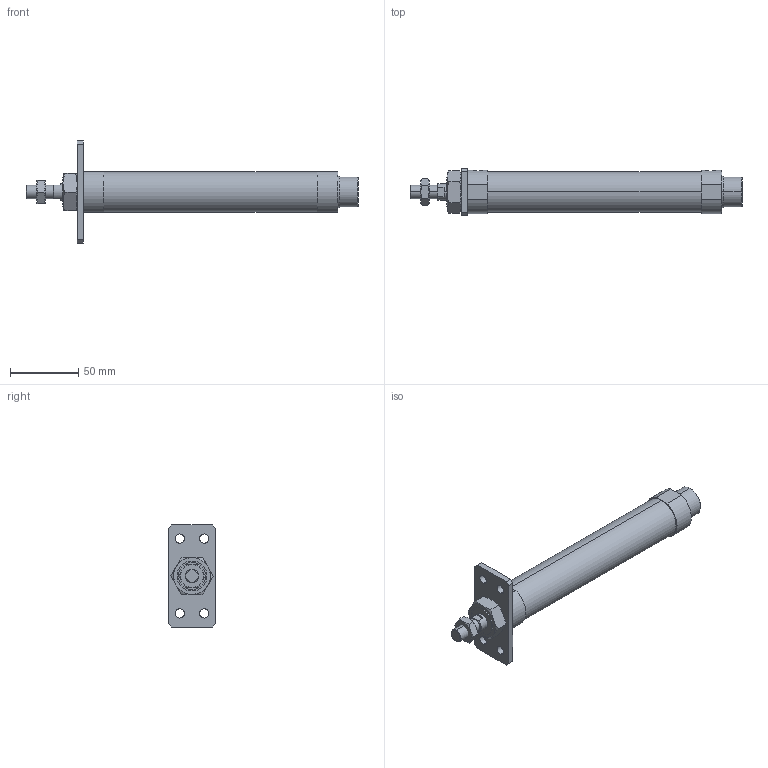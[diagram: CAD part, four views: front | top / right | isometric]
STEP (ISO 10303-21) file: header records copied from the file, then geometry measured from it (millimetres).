
FILE_DESCRIPTION (( 'STEP AP203' ), '1' );
FILE_NAME ('J#2-25-125-A.STEP', '2016-03-08T07:24:28', ( '' ), ( '' ), 'SwSTEP 2.0', 'SolidWorks 2014', '' );
FILE_SCHEMA (( 'CONFIG_CONTROL_DESIGN' ));
Length unit declared in the file: millimetre
Products named in the file (5): J#2-25-A; J#2-25-125; J#2-25-125-A
Assembly tree (4 placements, depth 2):
  J#2-25-125-A
    J#2-25-125
    (unnamed)
    (unnamed)
    J#2-25-A
Bounding box: 244 x 35 x 75 mm (x, y, z)
Volume: 159216.7 mm3; surface area: 32500.2 mm2
Topology: 4 solids, 4 shells, 117 faces, 268 edges, 162 vertices
Faces by surface type: plane 47, cylinder 36, torus 24, cone 10
Entity records: 4123 total; most frequent: CARTESIAN_POINT 990, DIRECTION 558, ORIENTED_EDGE 528, EDGE_CURVE 264, AXIS2_PLACEMENT_3D 226, VERTEX_POINT 162, EDGE_LOOP 138, ADVANCED_FACE 117
